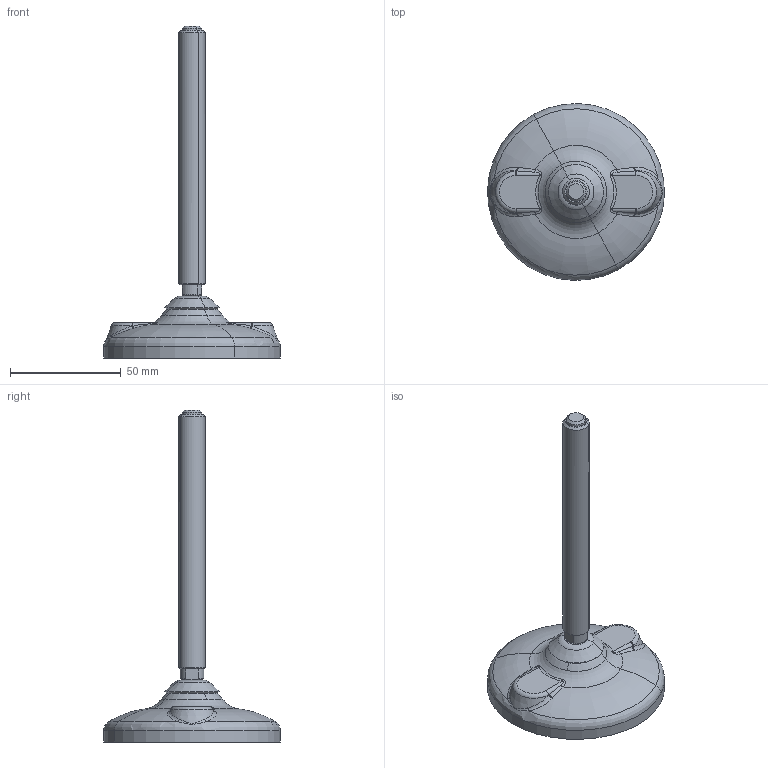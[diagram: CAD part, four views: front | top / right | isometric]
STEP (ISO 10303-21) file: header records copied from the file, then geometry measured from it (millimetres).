
FILE_DESCRIPTION(('CATIA V5 STEP Exchange'),'2;1');
FILE_NAME('X:\CODICI MOVEX\3D per clienti\3D definitivi\Part 900\P91002_01.stp','2016-07-19T13:43:36+00:00',('none'),('none'),'Version 5-6 Release 2012','CATIA V5 STEP AP203','none');
FILE_SCHEMA(('CONFIG_CONTROL_DESIGN'));
Length unit declared in the file: millimetre
Products named in the file (1): P91002_01
Assembly tree (3 placements, depth 2):
  P91002_01
    #58
    #1109
    #1504
Bounding box: 79.98 x 79.98 x 150.11 mm (x, y, z)
Volume: 55773.6 mm3; surface area: 34321.8 mm2
Topology: 3 solids, 5 shells, 865 faces, 2325 edges, 1454 vertices
Faces by surface type: plane 492, bspline 146, torus 73, cylinder 46, sphere 43, cone 41, revolution 24
Entity records: 35697 total; most frequent: CARTESIAN_POINT 17344, ORIENTED_EDGE 4596, DIRECTION 2396, EDGE_CURVE 2298, VERTEX_POINT 1454, B_SPLINE_CURVE_WITH_KNOTS 1186, AXIS2_PLACEMENT_3D 954, EDGE_LOOP 880
